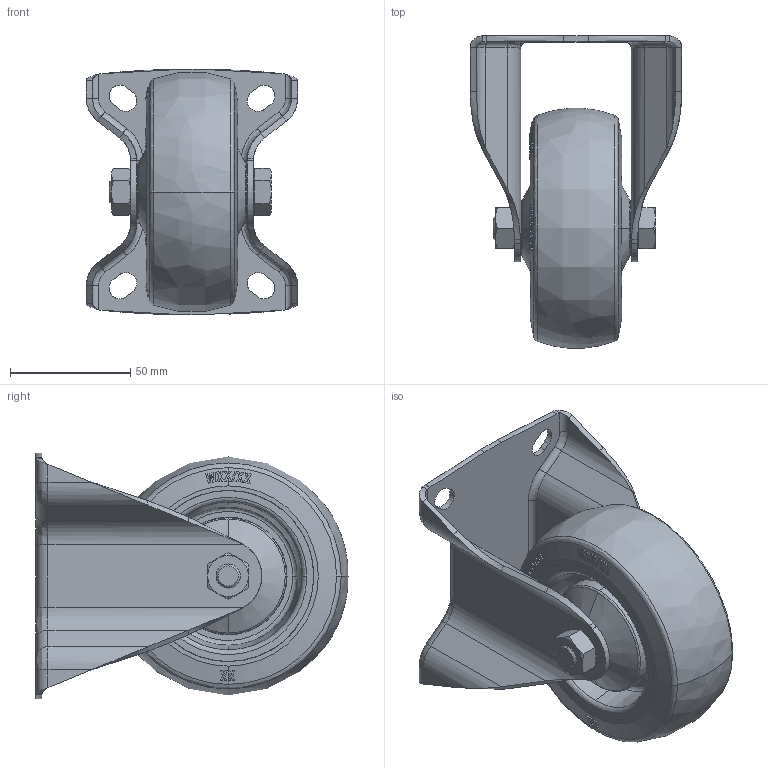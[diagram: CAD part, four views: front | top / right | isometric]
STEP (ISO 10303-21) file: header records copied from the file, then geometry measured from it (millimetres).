
FILE_DESCRIPTION (( 'STEP AP214' ), '1' );
FILE_NAME ('BKX-POBS_100XKA-1_922104-214.step', '2017-06-20T10:21:33', ( '' ), ( '' ), 'SwSTEP 2.0', 'SolidWorks 2010', '' );
FILE_SCHEMA (( 'AUTOMOTIVE_DESIGN' ));
Length unit declared in the file: millimetre
Products named in the file (4): AM_LKR_10x51x2,5_R; GH-BKX_100-1_G15; POBS_100x38_10XKA_857164; BKX-POBS_100XKA-1_922104-214
Assembly tree (3 placements, depth 2):
  BKX-POBS_100XKA-1_922104-214
    GH-BKX_100-1_G15
    POBS_100x38_10XKA_857164
    AM_LKR_10x51x2,5_R
Bounding box: 88 x 129.88 x 102 mm (x, y, z)
Volume: 288861.5 mm3; surface area: 96466.2 mm2
Topology: 3 solids, 8 shells, 1138 faces, 3000 edges, 1955 vertices
Faces by surface type: plane 569, bspline 310, cylinder 136, cone 123
Entity records: 60764 total; most frequent: CARTESIAN_POINT 22482, ORIENTED_EDGE 6000, DIRECTION 4199, EDGE_CURVE 3000, VERTEX_POINT 1955, LINE 1437, VECTOR 1437, AXIS2_PLACEMENT_3D 1381
